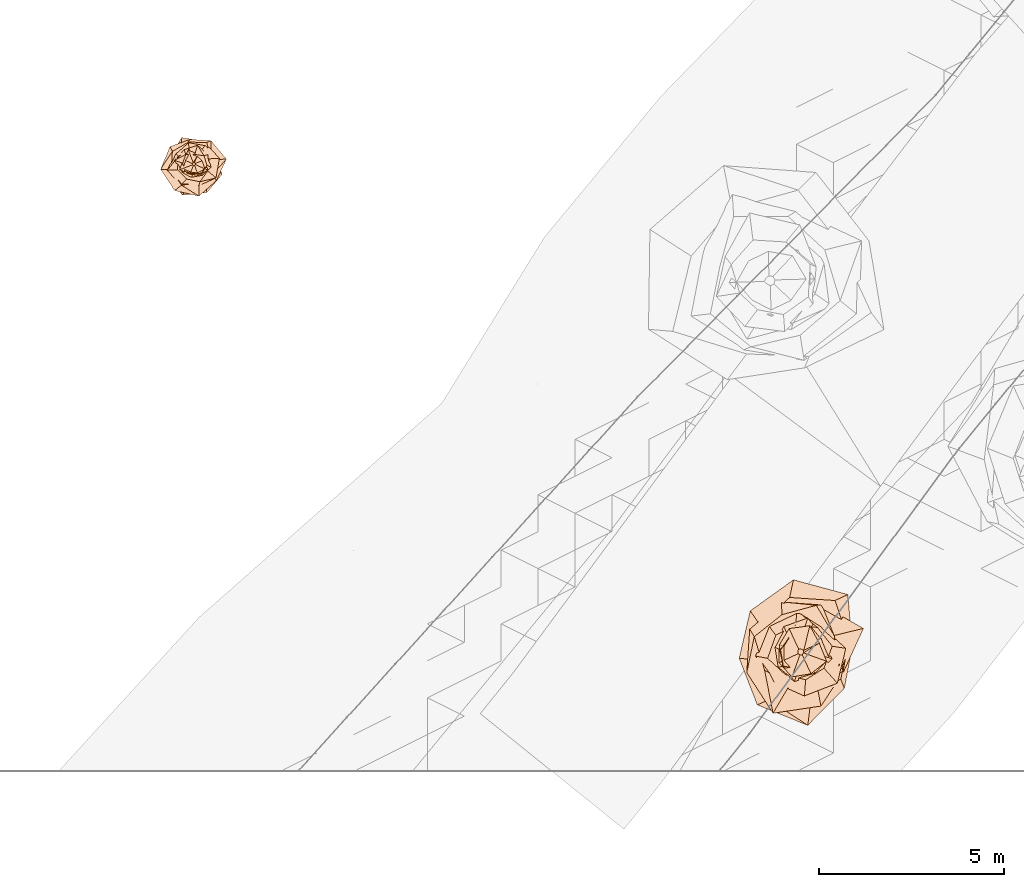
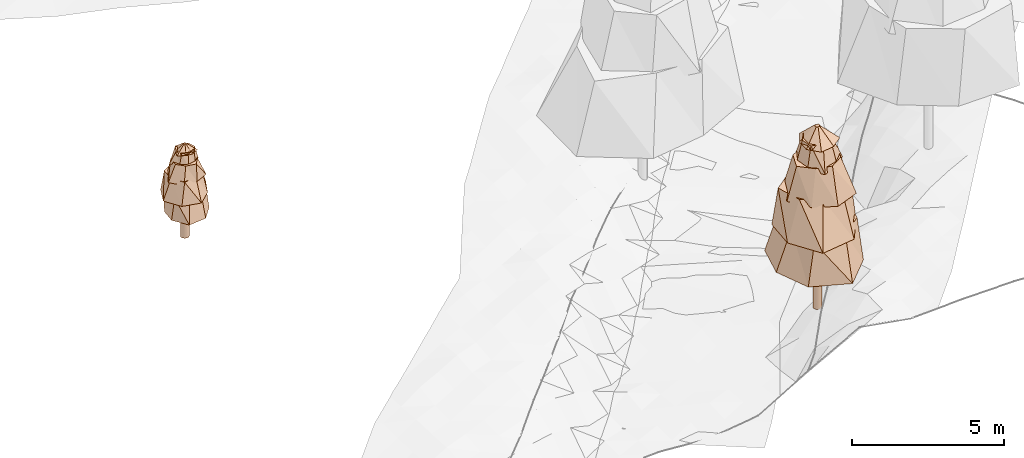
# Not in any storey, part 19 of 88: 2 geographic elements.
"""IFC4 model written with IfcOpenShell, lengths in metres."""

import ifcopenshell
import ifcopenshell.guid

model = None  # the IFC model being written
_history = None  # IfcOwnerHistory: only IFC2X3 demands one
_inside = {}  # id of a spatial element -> (the spatial element, [elements in it])
_under = {}  # id of a project, library or spatial element -> (it, [spatial elements below it])
_declared = {}  # id of a project -> (the project, [libraries it declares])
_typed = {}  # id of a type object -> (the type object, [elements of that type])
_made_of = {}  # id of a material, layer set ... -> (it, [elements and type objects made of it])


def new_model(schema):
    """Start an empty IFC model of exactly this schema.

    Asked for "IFC4X3", IfcOpenShell would pick the latest addendum, in which some entities
    have other attributes; the version numbers below select the first issue.
    IFC2X3 requires an IfcOwnerHistory on every rooted entity: one is made here for all.
    """
    global model, _history
    if schema == "IFC4X3":
        model = ifcopenshell.file(schema_version=(4, 3, 0, 0))
    else:
        model = ifcopenshell.file(schema=schema)
    _inside.clear()
    _under.clear()
    _declared.clear()
    _typed.clear()
    _made_of.clear()
    _history = None
    if model.schema == "IFC2X3":
        org = make("IfcOrganization", Name="unknown")
        user = make(
            "IfcPersonAndOrganization",
            ThePerson=make("IfcPerson", FamilyName="unknown"),
            TheOrganization=org,
        )
        app = make(
            "IfcApplication",
            ApplicationDeveloper=org,
            Version="unknown",
            ApplicationFullName="unknown",
            ApplicationIdentifier="unknown",
        )
        _history = make(
            "IfcOwnerHistory",
            OwningUser=user,
            OwningApplication=app,
            ChangeAction="ADDED",
            CreationDate=0,
        )
    return model


def make(cls, **values):
    """One entity of the class cls with the attributes given. An attribute that is None is left unset."""
    return model.create_entity(
        cls, **{name: value for name, value in values.items() if value is not None}
    )


def rooted(cls, **values):
    """An entity with a GlobalId (a new one), such as an element, a storey or a relation."""
    return make(cls, GlobalId=ifcopenshell.guid.new(), OwnerHistory=_history, **values)


def si_unit(unit_type, name, prefix=None):
    """IfcSIUnit, for example si_unit("LENGTHUNIT", "METRE", prefix="MILLI")."""
    return make("IfcSIUnit", UnitType=unit_type, Prefix=prefix, Name=name)


def assignment(units):
    """IfcUnitAssignment: the units of a project."""
    return None if units is None else make("IfcUnitAssignment", Units=units)


def point(xyz):
    """IfcCartesianPoint."""
    return None if xyz is None else make("IfcCartesianPoint", Coordinates=xyz)


def direction(xyz):
    """IfcDirection."""
    return None if xyz is None else make("IfcDirection", DirectionRatios=xyz)


def frame(location, z_axis=None, x_axis=None):
    """IfcAxis2Placement3D, a coordinate frame: its origin and axes. An axis left out is left unset."""
    return make(
        "IfcAxis2Placement3D",
        Location=point(location),
        Axis=direction(z_axis),
        RefDirection=direction(x_axis),
    )


def origin_with_axes():
    """The frame at (0, 0, 0) with the z axis (0, 0, 1) and the x axis (1, 0, 0) written out."""
    return frame((0.0, 0.0, 0.0), z_axis=(0.0, 0.0, 1.0), x_axis=(1.0, 0.0, 0.0))


def place(relative_to, where):
    """IfcLocalPlacement: puts the frame where relative to a parent placement (None: the world)."""
    return make(
        "IfcLocalPlacement", PlacementRelTo=relative_to, RelativePlacement=where
    )


def context(
    kind, dimensions, precision=None, world=None, true_north=None, identifier=None
):
    """IfcGeometricRepresentationContext, for example the 3D "Model" context."""
    return make(
        "IfcGeometricRepresentationContext",
        ContextIdentifier=identifier,
        ContextType=kind,
        CoordinateSpaceDimension=dimensions,
        Precision=precision,
        WorldCoordinateSystem=world,
        TrueNorth=true_north,
    )


def subcontext(parent, identifier, kind, view, scale=None):
    """IfcGeometricRepresentationSubContext, for example "Body" below "Model"."""
    return make(
        "IfcGeometricRepresentationSubContext",
        ContextIdentifier=identifier,
        ContextType=kind,
        ParentContext=parent,
        TargetScale=scale,
        TargetView=view,
    )


def project(units=None, contexts=None):
    """IfcProject with its units and contexts."""
    return rooted(
        "IfcProject",
        Name="project",
        RepresentationContexts=contexts,
        UnitsInContext=assignment(units),
    )


def spatial(cls, under=None, at=None, **own):
    """A site, building, storey or space (cls), placed at a placement, below another one or the project."""
    s = rooted(cls, ObjectPlacement=at, **own)
    if under is not None:
        _under.setdefault(under.id(), (under, []))[1].append(s)
    return s


def profile(cls, at=None, kind="AREA", **sizes):
    """A parametric profile (cls). Its sizes go by their IFC names, for example OverallWidth=200.0."""
    return make(cls, ProfileType=kind, Position=at, **sizes)


def circle(**sizes):
    """IfcCircleProfileDef."""
    return profile("IfcCircleProfileDef", **sizes)


def extrude(swept, where, along, depth):
    """IfcExtrudedAreaSolid: the profile swept, set in the frame where, extruded along a direction by depth."""
    return make(
        "IfcExtrudedAreaSolid",
        SweptArea=swept,
        Position=where,
        ExtrudedDirection=direction(along),
        Depth=depth,
    )


def faces_of(points, faces, orient=None, outer=None):
    """IfcFace entities. A face is a list of loops; a loop is a list of indices into points, from 0.

    orient and outer hold one flag for each loop. By default every Orientation is true, the
    first loop of a face is its IfcFaceOuterBound and the others are IfcFaceBound.
    """
    made = []
    for i, loops in enumerate(faces):
        bounds = []
        for j, loop in enumerate(loops):
            is_outer = j == 0 if outer is None else outer[i][j]
            bounds.append(
                make(
                    "IfcFaceOuterBound" if is_outer else "IfcFaceBound",
                    Bound=make("IfcPolyLoop", Polygon=[points[k] for k in loop]),
                    Orientation=True if orient is None else orient[i][j],
                )
            )
        made.append(make("IfcFace", Bounds=bounds))
    return made


def faceted_brep(points, faces, orient=None, outer=None, voids=None):
    """IfcFacetedBrep: a solid bounded by flat faces; with voids (closed shells), ...WithVoids."""
    shared = [point(p) for p in points]
    hull = make("IfcClosedShell", CfsFaces=faces_of(shared, faces, orient, outer))
    if voids is None:
        return make("IfcFacetedBrep", Outer=hull)
    return make(
        "IfcFacetedBrepWithVoids",
        Outer=hull,
        Voids=[
            make(cls, CfsFaces=faces_of(shared, fs, o, b)) for cls, fs, o, b in voids
        ],
    )


def shape(context_of_items, identifier, shape_type, items):
    """IfcShapeRepresentation: the items that make up one representation, for example the "Body"."""
    return make(
        "IfcShapeRepresentation",
        ContextOfItems=context_of_items,
        RepresentationIdentifier=identifier,
        RepresentationType=shape_type,
        Items=items,
    )


def made_of(thing, what):
    """Note that an element or type object is made of a material, layer set ...; save() writes the relation."""
    if what is not None:
        _made_of.setdefault(what.id(), (what, []))[1].append(thing)
    return thing


def element(
    cls,
    number,
    at=None,
    inside=None,
    cuts=None,
    type_object=None,
    material=None,
    context=None,
    identifier="Body",
    shape_type=None,
    held_by="IfcProductDefinitionShape",
    body=None,
    shapes=None,
    **own,
):
    """One element of the class cls, such as IfcWall. Its Tag is "e" and its number.

    at: its placement. inside: the storey or other place that contains it. cuts: it is an
    opening in that element (IfcRelVoidsElement). A single representation is given by context,
    identifier, shape_type and body (its items); several are given by shapes. held_by: the class
    of the entity that holds the representations. save() writes the other relations.
    """
    e = rooted(cls, Tag="e%d" % number, ObjectPlacement=at, **own)
    if body is not None:
        shapes = [shape(context, identifier, shape_type, body)]
    if shapes is not None:
        e.Representation = make(held_by, Representations=shapes)
    if inside is not None:
        _inside.setdefault(inside.id(), (inside, []))[1].append(e)
    if cuts is not None:
        rooted(
            "IfcRelVoidsElement", RelatingBuildingElement=cuts, RelatedOpeningElement=e
        )
    if type_object is not None:
        _typed.setdefault(type_object.id(), (type_object, []))[1].append(e)
    return made_of(e, material)


def aggregate(whole, parts):
    """IfcRelAggregates: a whole, such as a stair, and the parts it consists of."""
    return rooted("IfcRelAggregates", RelatingObject=whole, RelatedObjects=parts)


def save(model, path):
    """Write the relations noted so far, then the file.

    IfcRelAggregates (storeys below a building ...), IfcRelContainedInSpatialStructure (elements
    in a storey), IfcRelDefinesByType, IfcRelAssociatesMaterial and IfcRelDeclares: one each for
    every whole, place, type object, material and project.
    """
    for whole, parts in _under.values():
        aggregate(whole, parts)
    for where, things in _inside.values():
        rooted(
            "IfcRelContainedInSpatialStructure",
            RelatedElements=things,
            RelatingStructure=where,
        )
    for kind, things in _typed.values():
        rooted("IfcRelDefinesByType", RelatedObjects=things, RelatingType=kind)
    for what, things in _made_of.values():
        rooted("IfcRelAssociatesMaterial", RelatedObjects=things, RelatingMaterial=what)
    for by, libraries in _declared.values():
        rooted("IfcRelDeclares", RelatingContext=by, RelatedDefinitions=libraries)
    model.write(path)


model = new_model("IFC4")

# Units and contexts
model_context = context("Model", 3, precision=1e-05, world=origin_with_axes())
body_context = subcontext(model_context, "Body", "Model", "MODEL_VIEW")
ifc_project = project(units=[si_unit("LENGTHUNIT", "METRE"), si_unit("AREAUNIT", "SQUARE_METRE"), si_unit("VOLUMEUNIT", "CUBIC_METRE"), si_unit("PLANEANGLEUNIT", "RADIAN")], contexts=[model_context])

# Sites
site_1_placement = place(None, origin_with_axes())
site_1 = spatial("IfcSite", under=ifc_project, at=site_1_placement, Name="CH907857693633", CompositionType="ELEMENT")
site_2_placement = place(None, origin_with_axes())
site_2 = spatial("IfcSite", under=site_1, at=site_2_placement, Name="Vegetation", CompositionType="ELEMENT")

# Geographic element
geographic_element_1_placement = place(None, frame((25.6720000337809, 16.4590034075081, 2.1973876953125), z_axis=(0.0, 0.0, 1.0), x_axis=(1.0, 0.0, 0.0)))
element("IfcGeographicElement", 1, at=geographic_element_1_placement, inside=site_2, Name="Tree_einzelbaum", ObjectType="VEGETATION", PredefinedType="USERDEFINED", context=body_context, shape_type="Brep", body=[
    extrude(circle(Radius=0.15), origin_with_axes(), (0.0, 0.0, 1.0), 1.04802502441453),
    faceted_brep([(0.760157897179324, -0.283802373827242, 1.04802502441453), (0.352301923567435, -0.772089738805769, 1.04802502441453), (-0.315063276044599, -0.843889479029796, 1.04802502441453), (-0.683930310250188, -0.3120750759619, 1.04802502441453), (-0.64118519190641, 0.239384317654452, 1.04802502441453), (-0.328498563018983, 0.71992331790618, 1.04802502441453), (0.233872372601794, 0.626421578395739, 1.04802502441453), (0.620375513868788, 0.283075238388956, 1.04802502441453), (0.608518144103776, 0.354971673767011, 1.92580407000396), (0.134040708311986, 0.509361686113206, 1.92580407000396), (-0.340470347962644, 0.583658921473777, 1.92580407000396), (-0.694698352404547, 0.182812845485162, 1.92580407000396), (-0.579079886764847, -0.337799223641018, 1.92580407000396), (-0.157689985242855, -0.599230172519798, 1.92580407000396), (0.307355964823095, -0.526891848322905, 1.92580407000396), (0.687974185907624, -0.181043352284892, 1.92580407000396), (0.620375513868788, 0.283075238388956, 1.04802502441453), (0.233872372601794, 0.626421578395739, 1.04802502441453), (0.134040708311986, 0.509361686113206, 1.92580407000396), (0.608518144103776, 0.354971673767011, 1.92580407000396), (0.233872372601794, 0.626421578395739, 1.04802502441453), (-0.328498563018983, 0.71992331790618, 1.04802502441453), (-0.340470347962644, 0.583658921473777, 1.92580407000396), (0.134040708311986, 0.509361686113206, 1.92580407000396), (-0.328498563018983, 0.71992331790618, 1.04802502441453), (-0.64118519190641, 0.239384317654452, 1.04802502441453), (-0.694698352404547, 0.182812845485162, 1.92580407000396), (-0.340470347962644, 0.583658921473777, 1.92580407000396), (-0.64118519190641, 0.239384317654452, 1.04802502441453), (-0.683930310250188, -0.3120750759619, 1.04802502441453), (-0.579079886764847, -0.337799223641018, 1.92580407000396), (-0.694698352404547, 0.182812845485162, 1.92580407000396), (-0.683930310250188, -0.3120750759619, 1.04802502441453), (-0.315063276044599, -0.843889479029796, 1.04802502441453), (-0.157689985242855, -0.599230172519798, 1.92580407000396), (-0.579079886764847, -0.337799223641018, 1.92580407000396), (-0.315063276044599, -0.843889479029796, 1.04802502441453), (0.352301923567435, -0.772089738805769, 1.04802502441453), (0.307355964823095, -0.526891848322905, 1.92580407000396), (-0.157689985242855, -0.599230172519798, 1.92580407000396), (0.352301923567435, -0.772089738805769, 1.04802502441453), (0.760157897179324, -0.283802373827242, 1.04802502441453), (0.687974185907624, -0.181043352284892, 1.92580407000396), (0.307355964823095, -0.526891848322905, 1.92580407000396), (0.760157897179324, -0.283802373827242, 1.04802502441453), (0.620375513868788, 0.283075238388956, 1.04802502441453), (0.608518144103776, 0.354971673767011, 1.92580407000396), (0.687974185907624, -0.181043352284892, 1.92580407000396)], [[[0, 1, 2, 3, 4, 5, 6, 7]], [[8, 9, 10, 11, 12, 13, 14, 15]], [[16, 17, 18, 19]], [[20, 21, 22, 23]], [[24, 25, 26, 27]], [[28, 29, 30, 31]], [[32, 33, 34, 35]], [[36, 37, 38, 39]], [[40, 41, 42, 43]], [[44, 45, 46, 47]]]),
    faceted_brep([(0.609917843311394, -0.446165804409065, 1.79413721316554), (0.134679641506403, -0.868587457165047, 1.79413721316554), (-0.524050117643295, -0.716387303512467, 1.79413721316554), (-0.904117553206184, -0.140188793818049, 1.79413721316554), (-0.648590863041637, 0.474455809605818, 1.79413721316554), (-0.104321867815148, 0.672801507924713, 1.79413721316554), (0.462765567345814, 0.632610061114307, 1.79413721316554), (0.880609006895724, 0.136543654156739, 1.79413721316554), (0.459568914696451, 0.119224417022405, 2.6106893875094), (0.34656120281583, 0.589365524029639, 2.6106893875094), (-0.154292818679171, 0.594745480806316, 2.6106893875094), (-0.584459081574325, 0.34367609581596, 2.6106893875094), (-0.616670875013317, -0.159980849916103, 2.6106893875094), (-0.336207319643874, -0.571757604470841, 2.6106893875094), (0.131516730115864, -0.506951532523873, 2.6106893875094), (0.496121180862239, -0.291731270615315, 2.6106893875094), (0.880609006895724, 0.136543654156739, 1.79413721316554), (0.462765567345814, 0.632610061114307, 1.79413721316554), (0.34656120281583, 0.589365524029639, 2.6106893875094), (0.459568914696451, 0.119224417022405, 2.6106893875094), (0.462765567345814, 0.632610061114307, 1.79413721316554), (-0.104321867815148, 0.672801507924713, 1.79413721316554), (-0.154292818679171, 0.594745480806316, 2.6106893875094), (0.34656120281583, 0.589365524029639, 2.6106893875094), (-0.104321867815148, 0.672801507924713, 1.79413721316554), (-0.648590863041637, 0.474455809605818, 1.79413721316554), (-0.584459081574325, 0.34367609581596, 2.6106893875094), (-0.154292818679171, 0.594745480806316, 2.6106893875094), (-0.648590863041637, 0.474455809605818, 1.79413721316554), (-0.904117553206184, -0.140188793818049, 1.79413721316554), (-0.616670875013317, -0.159980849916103, 2.6106893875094), (-0.584459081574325, 0.34367609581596, 2.6106893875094), (-0.904117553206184, -0.140188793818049, 1.79413721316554), (-0.524050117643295, -0.716387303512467, 1.79413721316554), (-0.336207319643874, -0.571757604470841, 2.6106893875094), (-0.616670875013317, -0.159980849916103, 2.6106893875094), (-0.524050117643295, -0.716387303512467, 1.79413721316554), (0.134679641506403, -0.868587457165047, 1.79413721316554), (0.131516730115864, -0.506951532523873, 2.6106893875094), (-0.336207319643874, -0.571757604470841, 2.6106893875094), (0.134679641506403, -0.868587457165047, 1.79413721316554), (0.609917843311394, -0.446165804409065, 1.79413721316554), (0.496121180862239, -0.291731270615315, 2.6106893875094), (0.131516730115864, -0.506951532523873, 2.6106893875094), (0.609917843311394, -0.446165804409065, 1.79413721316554), (0.880609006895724, 0.136543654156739, 1.79413721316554), (0.459568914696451, 0.119224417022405, 2.6106893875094), (0.496121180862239, -0.291731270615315, 2.6106893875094)], [[[0, 1, 2, 3, 4, 5, 6, 7]], [[8, 9, 10, 11, 12, 13, 14, 15]], [[16, 17, 18, 19]], [[20, 21, 22, 23]], [[24, 25, 26, 27]], [[28, 29, 30, 31]], [[32, 33, 34, 35]], [[36, 37, 38, 39]], [[40, 41, 42, 43]], [[44, 45, 46, 47]]]),
    faceted_brep([(0.597835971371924, -0.372540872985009, 2.48820656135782), (0.135492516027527, -0.583584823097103, 2.48820656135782), (-0.355609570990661, -0.570665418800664, 2.48820656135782), (-0.72435803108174, -0.168176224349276, 2.48820656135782), (-0.498180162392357, 0.310440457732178, 2.48820656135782), (-0.144704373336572, 0.62326155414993, 2.48820656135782), (0.336332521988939, 0.539730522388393, 2.48820656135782), (0.690406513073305, 0.16029360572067, 2.48820656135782), (0.417452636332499, 0.142116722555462, 3.11753908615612), (0.169001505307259, 0.343464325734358, 3.11753908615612), (-0.136364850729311, 0.400557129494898, 3.11753908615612), (-0.42375328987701, 0.208507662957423, 3.11753908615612), (-0.445520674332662, -0.151672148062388, 3.11753908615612), (-0.199612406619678, -0.40567532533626, 3.11753908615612), (0.162961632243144, -0.478682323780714, 3.11753908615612), (0.373643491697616, -0.183851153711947, 3.11753908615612), (0.690406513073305, 0.16029360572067, 2.48820656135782), (0.336332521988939, 0.539730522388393, 2.48820656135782), (0.169001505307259, 0.343464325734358, 3.11753908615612), (0.417452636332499, 0.142116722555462, 3.11753908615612), (0.336332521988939, 0.539730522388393, 2.48820656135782), (-0.144704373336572, 0.62326155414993, 2.48820656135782), (-0.136364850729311, 0.400557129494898, 3.11753908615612), (0.169001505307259, 0.343464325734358, 3.11753908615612), (-0.144704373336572, 0.62326155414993, 2.48820656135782), (-0.498180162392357, 0.310440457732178, 2.48820656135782), (-0.42375328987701, 0.208507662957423, 3.11753908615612), (-0.136364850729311, 0.400557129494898, 3.11753908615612), (-0.498180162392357, 0.310440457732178, 2.48820656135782), (-0.72435803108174, -0.168176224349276, 2.48820656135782), (-0.445520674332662, -0.151672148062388, 3.11753908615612), (-0.42375328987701, 0.208507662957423, 3.11753908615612), (-0.72435803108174, -0.168176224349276, 2.48820656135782), (-0.355609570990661, -0.570665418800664, 2.48820656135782), (-0.199612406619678, -0.40567532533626, 3.11753908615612), (-0.445520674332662, -0.151672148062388, 3.11753908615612), (-0.355609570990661, -0.570665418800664, 2.48820656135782), (0.135492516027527, -0.583584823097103, 2.48820656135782), (0.162961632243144, -0.478682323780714, 3.11753908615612), (-0.199612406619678, -0.40567532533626, 3.11753908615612), (0.135492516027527, -0.583584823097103, 2.48820656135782), (0.597835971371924, -0.372540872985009, 2.48820656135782), (0.373643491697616, -0.183851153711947, 3.11753908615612), (0.162961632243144, -0.478682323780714, 3.11753908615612), (0.597835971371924, -0.372540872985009, 2.48820656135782), (0.690406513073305, 0.16029360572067, 2.48820656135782), (0.417452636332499, 0.142116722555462, 3.11753908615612), (0.373643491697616, -0.183851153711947, 3.11753908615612)], [[[0, 1, 2, 3, 4, 5, 6, 7]], [[8, 9, 10, 11, 12, 13, 14, 15]], [[16, 17, 18, 19]], [[20, 21, 22, 23]], [[24, 25, 26, 27]], [[28, 29, 30, 31]], [[32, 33, 34, 35]], [[36, 37, 38, 39]], [[40, 41, 42, 43]], [[44, 45, 46, 47]]]),
    faceted_brep([(0.46443738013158, -0.0881870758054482, 3.02313920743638), (0.223379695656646, -0.328092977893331, 3.02313920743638), (-0.0718966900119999, -0.37864403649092, 3.02313920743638), (-0.33846258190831, -0.23043976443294, 3.02313920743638), (-0.526856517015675, 0.100039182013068, 3.02313920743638), (-0.266728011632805, 0.391761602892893, 3.02313920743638), (0.0974395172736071, 0.513165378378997, 3.02313920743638), (0.377544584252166, 0.257048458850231, 3.02313920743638), (0.271100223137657, 0.227305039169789, 3.49990604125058), (0.023009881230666, 0.261860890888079, 3.49990604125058), (-0.220483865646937, 0.262964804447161, 3.49990604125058), (-0.305514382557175, 0.0268457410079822, 3.49990604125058), (-0.240085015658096, -0.201300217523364, 3.49990604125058), (-0.0226245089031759, -0.257475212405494, 3.49990604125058), (0.205553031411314, -0.245157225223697, 3.49990604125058), (0.355649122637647, -0.0312511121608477, 3.49990604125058), (0.377544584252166, 0.257048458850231, 3.02313920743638), (0.0974395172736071, 0.513165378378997, 3.02313920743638), (0.023009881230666, 0.261860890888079, 3.49990604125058), (0.271100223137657, 0.227305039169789, 3.49990604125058), (0.0974395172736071, 0.513165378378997, 3.02313920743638), (-0.266728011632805, 0.391761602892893, 3.02313920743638), (-0.220483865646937, 0.262964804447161, 3.49990604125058), (0.023009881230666, 0.261860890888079, 3.49990604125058), (-0.266728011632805, 0.391761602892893, 3.02313920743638), (-0.526856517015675, 0.100039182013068, 3.02313920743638), (-0.305514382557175, 0.0268457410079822, 3.49990604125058), (-0.220483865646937, 0.262964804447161, 3.49990604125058), (-0.526856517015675, 0.100039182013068, 3.02313920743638), (-0.33846258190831, -0.23043976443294, 3.02313920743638), (-0.240085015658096, -0.201300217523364, 3.49990604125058), (-0.305514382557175, 0.0268457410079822, 3.49990604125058), (-0.33846258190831, -0.23043976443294, 3.02313920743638), (-0.0718966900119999, -0.37864403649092, 3.02313920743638), (-0.0226245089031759, -0.257475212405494, 3.49990604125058), (-0.240085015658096, -0.201300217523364, 3.49990604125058), (-0.0718966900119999, -0.37864403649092, 3.02313920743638), (0.223379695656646, -0.328092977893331, 3.02313920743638), (0.205553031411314, -0.245157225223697, 3.49990604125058), (-0.0226245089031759, -0.257475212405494, 3.49990604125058), (0.223379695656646, -0.328092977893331, 3.02313920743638), (0.46443738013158, -0.0881870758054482, 3.02313920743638), (0.355649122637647, -0.0312511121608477, 3.49990604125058), (0.205553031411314, -0.245157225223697, 3.49990604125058), (0.46443738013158, -0.0881870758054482, 3.02313920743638), (0.377544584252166, 0.257048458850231, 3.02313920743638), (0.271100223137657, 0.227305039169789, 3.49990604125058), (0.355649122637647, -0.0312511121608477, 3.49990604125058)], [[[0, 1, 2, 3, 4, 5, 6, 7]], [[8, 9, 10, 11, 12, 13, 14, 15]], [[16, 17, 18, 19]], [[20, 21, 22, 23]], [[24, 25, 26, 27]], [[28, 29, 30, 31]], [[32, 33, 34, 35]], [[36, 37, 38, 39]], [[40, 41, 42, 43]], [[44, 45, 46, 47]]]),
    faceted_brep([(0.38207179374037, -0.165537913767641, 3.42839101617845), (0.120381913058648, -0.304443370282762, 3.42839101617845), (-0.11770187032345, -0.271663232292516, 3.42839101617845), (-0.386631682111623, -0.152880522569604, 3.42839101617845), (-0.290263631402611, 0.125760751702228, 3.42839101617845), (-0.151858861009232, 0.384047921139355, 3.42839101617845), (0.114160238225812, 0.263488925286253, 3.42839101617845), (0.283248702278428, 0.112001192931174, 3.42839101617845), (0.0356344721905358, 0.0183956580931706, 3.72146262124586), (0.0158121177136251, 0.0495585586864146, 3.72146262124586), (-0.0185533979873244, 0.0359400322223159, 3.72146262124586), (-0.0391096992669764, 0.012478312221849, 3.72146262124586), (-0.039837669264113, -0.0205654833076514, 3.72146262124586), (-0.0125453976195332, -0.0393199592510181, 3.72146262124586), (0.0168143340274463, -0.0325712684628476, 3.72146262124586), (0.0380590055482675, -0.012143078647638, 3.72146262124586), (0.283248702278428, 0.112001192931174, 3.42839101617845), (0.114160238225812, 0.263488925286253, 3.42839101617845), (0.0158121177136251, 0.0495585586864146, 3.72146262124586), (0.0356344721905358, 0.0183956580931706, 3.72146262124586), (0.114160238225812, 0.263488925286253, 3.42839101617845), (-0.151858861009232, 0.384047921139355, 3.42839101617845), (-0.0185533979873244, 0.0359400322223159, 3.72146262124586), (0.0158121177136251, 0.0495585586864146, 3.72146262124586), (-0.151858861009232, 0.384047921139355, 3.42839101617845), (-0.290263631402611, 0.125760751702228, 3.42839101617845), (-0.0391096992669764, 0.012478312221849, 3.72146262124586), (-0.0185533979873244, 0.0359400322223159, 3.72146262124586), (-0.290263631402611, 0.125760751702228, 3.42839101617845), (-0.386631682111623, -0.152880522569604, 3.42839101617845), (-0.039837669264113, -0.0205654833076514, 3.72146262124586), (-0.0391096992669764, 0.012478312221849, 3.72146262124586), (-0.386631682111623, -0.152880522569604, 3.42839101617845), (-0.11770187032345, -0.271663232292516, 3.42839101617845), (-0.0125453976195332, -0.0393199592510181, 3.72146262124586), (-0.039837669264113, -0.0205654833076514, 3.72146262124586), (-0.11770187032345, -0.271663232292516, 3.42839101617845), (0.120381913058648, -0.304443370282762, 3.42839101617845), (0.0168143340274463, -0.0325712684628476, 3.72146262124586), (-0.0125453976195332, -0.0393199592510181, 3.72146262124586), (0.120381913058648, -0.304443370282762, 3.42839101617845), (0.38207179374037, -0.165537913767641, 3.42839101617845), (0.0380590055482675, -0.012143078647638, 3.72146262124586), (0.0168143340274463, -0.0325712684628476, 3.72146262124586), (0.38207179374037, -0.165537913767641, 3.42839101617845), (0.283248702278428, 0.112001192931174, 3.42839101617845), (0.0356344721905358, 0.0183956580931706, 3.72146262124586), (0.0380590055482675, -0.012143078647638, 3.72146262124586)], [[[0, 1, 2, 3, 4, 5, 6, 7]], [[8, 9, 10, 11, 12, 13, 14, 15]], [[16, 17, 18, 19]], [[20, 21, 22, 23]], [[24, 25, 26, 27]], [[28, 29, 30, 31]], [[32, 33, 34, 35]], [[36, 37, 38, 39]], [[40, 41, 42, 43]], [[44, 45, 46, 47]]]),
])

# Site
site_3_placement = place(None, origin_with_axes())
site_3 = spatial("IfcSite", under=site_1, at=site_3_placement, Name="Simulated_forest", CompositionType="ELEMENT")

# Geographic element
geographic_element_2_placement = place(None, frame((42.1116067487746, 3.23241962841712, 1.59759521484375), z_axis=(0.0, 0.0, 1.0), x_axis=(1.0, 0.0, 0.0)))
element("IfcGeographicElement", 2, at=geographic_element_2_placement, inside=site_3, Name="Tree_SIMULATED_WOODED_AREA", ObjectType="VEGETATION", PredefinedType="USERDEFINED", context=body_context, shape_type="Brep", body=[
    extrude(circle(Radius=0.15), origin_with_axes(), (0.0, 0.0, 1.0), 2.07273399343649),
    faceted_brep([(1.18630371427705, -0.974513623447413, 2.07273399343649), (0.194258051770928, -1.98194431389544, 2.07273399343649), (-1.17179637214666, -1.42646172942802, 2.07273399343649), (-1.66366732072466, -0.163062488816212, 2.07273399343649), (-1.36334178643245, 1.11994519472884, 2.07273399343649), (-0.19214657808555, 1.96040171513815, 2.07273399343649), (1.28310441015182, 1.56196023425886, 2.07273399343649), (1.39969796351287, 0.137189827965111, 2.07273399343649), (1.32136178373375, 0.264693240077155, 3.65419368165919), (0.933150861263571, 1.40065550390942, 3.65419368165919), (-0.297042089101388, 1.48284884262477, 3.65419368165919), (-1.09721382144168, 0.73099061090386, 3.65419368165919), (-1.12503481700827, -0.22536531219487, 3.65419368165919), (-0.8588319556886, -1.28910314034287, 3.65419368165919), (0.272692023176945, -1.36129210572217, 3.65419368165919), (1.08862535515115, -0.725268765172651, 3.65419368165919), (1.39969796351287, 0.137189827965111, 2.07273399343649), (1.28310441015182, 1.56196023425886, 2.07273399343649), (0.933150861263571, 1.40065550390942, 3.65419368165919), (1.32136178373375, 0.264693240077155, 3.65419368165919), (1.28310441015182, 1.56196023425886, 2.07273399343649), (-0.19214657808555, 1.96040171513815, 2.07273399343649), (-0.297042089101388, 1.48284884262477, 3.65419368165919), (0.933150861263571, 1.40065550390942, 3.65419368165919), (-0.19214657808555, 1.96040171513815, 2.07273399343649), (-1.36334178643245, 1.11994519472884, 2.07273399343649), (-1.09721382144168, 0.73099061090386, 3.65419368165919), (-0.297042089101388, 1.48284884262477, 3.65419368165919), (-1.36334178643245, 1.11994519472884, 2.07273399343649), (-1.66366732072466, -0.163062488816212, 2.07273399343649), (-1.12503481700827, -0.22536531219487, 3.65419368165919), (-1.09721382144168, 0.73099061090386, 3.65419368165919), (-1.66366732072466, -0.163062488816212, 2.07273399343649), (-1.17179637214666, -1.42646172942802, 2.07273399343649), (-0.8588319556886, -1.28910314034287, 3.65419368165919), (-1.12503481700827, -0.22536531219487, 3.65419368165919), (-1.17179637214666, -1.42646172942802, 2.07273399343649), (0.194258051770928, -1.98194431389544, 2.07273399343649), (0.272692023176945, -1.36129210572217, 3.65419368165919), (-0.8588319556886, -1.28910314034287, 3.65419368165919), (0.194258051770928, -1.98194431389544, 2.07273399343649), (1.18630371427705, -0.974513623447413, 2.07273399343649), (1.08862535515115, -0.725268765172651, 3.65419368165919), (0.272692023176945, -1.36129210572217, 3.65419368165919), (1.18630371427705, -0.974513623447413, 2.07273399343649), (1.39969796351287, 0.137189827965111, 2.07273399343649), (1.32136178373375, 0.264693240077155, 3.65419368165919), (1.08862535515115, -0.725268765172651, 3.65419368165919)], [[[0, 1, 2, 3, 4, 5, 6, 7]], [[8, 9, 10, 11, 12, 13, 14, 15]], [[16, 17, 18, 19]], [[20, 21, 22, 23]], [[24, 25, 26, 27]], [[28, 29, 30, 31]], [[32, 33, 34, 35]], [[36, 37, 38, 39]], [[40, 41, 42, 43]], [[44, 45, 46, 47]]]),
    faceted_brep([(1.16747525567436, -0.526897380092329, 3.41697472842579), (0.552255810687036, -1.46075468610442, 3.41697472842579), (-0.746231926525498, -1.65346677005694, 3.41697472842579), (-1.4583624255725, -0.551351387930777, 3.41697472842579), (-1.37806002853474, 0.621937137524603, 3.41697472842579), (-0.515557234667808, 1.36368442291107, 3.41697472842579), (0.578134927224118, 1.28100508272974, 3.41697472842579), (1.70350695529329, 0.644031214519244, 3.41697472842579), (0.909313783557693, 0.452164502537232, 4.96404066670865), (0.426384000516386, 1.26985337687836, 4.96404066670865), (-0.505667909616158, 1.01691043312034, 4.96404066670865), (-1.25400360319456, 0.421062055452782, 4.96404066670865), (-0.974469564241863, -0.484563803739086, 4.96404066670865), (-0.301748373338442, -0.898664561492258, 4.96404066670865), (0.44291443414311, -0.890711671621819, 4.96404066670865), (1.05388066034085, -0.353865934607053, 4.96404066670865), (1.70350695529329, 0.644031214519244, 3.41697472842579), (0.578134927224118, 1.28100508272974, 3.41697472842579), (0.426384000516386, 1.26985337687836, 4.96404066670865), (0.909313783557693, 0.452164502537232, 4.96404066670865), (0.578134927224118, 1.28100508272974, 3.41697472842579), (-0.515557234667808, 1.36368442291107, 3.41697472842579), (-0.505667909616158, 1.01691043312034, 4.96404066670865), (0.426384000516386, 1.26985337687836, 4.96404066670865), (-0.515557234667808, 1.36368442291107, 3.41697472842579), (-1.37806002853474, 0.621937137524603, 3.41697472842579), (-1.25400360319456, 0.421062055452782, 4.96404066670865), (-0.505667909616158, 1.01691043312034, 4.96404066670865), (-1.37806002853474, 0.621937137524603, 3.41697472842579), (-1.4583624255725, -0.551351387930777, 3.41697472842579), (-0.974469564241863, -0.484563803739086, 4.96404066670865), (-1.25400360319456, 0.421062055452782, 4.96404066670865), (-1.4583624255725, -0.551351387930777, 3.41697472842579), (-0.746231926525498, -1.65346677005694, 3.41697472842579), (-0.301748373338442, -0.898664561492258, 4.96404066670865), (-0.974469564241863, -0.484563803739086, 4.96404066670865), (-0.746231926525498, -1.65346677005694, 3.41697472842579), (0.552255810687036, -1.46075468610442, 3.41697472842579), (0.44291443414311, -0.890711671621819, 4.96404066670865), (-0.301748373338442, -0.898664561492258, 4.96404066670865), (0.552255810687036, -1.46075468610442, 3.41697472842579), (1.16747525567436, -0.526897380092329, 3.41697472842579), (1.05388066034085, -0.353865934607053, 4.96404066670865), (0.44291443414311, -0.890711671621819, 4.96404066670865), (1.16747525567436, -0.526897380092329, 3.41697472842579), (1.70350695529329, 0.644031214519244, 3.41697472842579), (0.909313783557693, 0.452164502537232, 4.96404066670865), (1.05388066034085, -0.353865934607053, 4.96404066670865)], [[[0, 1, 2, 3, 4, 5, 6, 7]], [[8, 9, 10, 11, 12, 13, 14, 15]], [[16, 17, 18, 19]], [[20, 21, 22, 23]], [[24, 25, 26, 27]], [[28, 29, 30, 31]], [[32, 33, 34, 35]], [[36, 37, 38, 39]], [[40, 41, 42, 43]], [[44, 45, 46, 47]]]),
    faceted_brep([(0.996165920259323, -0.8397445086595, 4.73198077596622), (0.101037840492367, -1.18587617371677, 4.73198077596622), (-0.700761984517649, -0.831294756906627, 4.73198077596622), (-1.22277562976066, -0.104181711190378, 4.73198077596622), (-0.881519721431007, 0.743100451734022, 4.73198077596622), (-0.0952002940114, 1.11736117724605, 4.73198077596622), (0.579700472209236, 0.687682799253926, 4.73198077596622), (1.22628003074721, 0.104480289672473, 4.73198077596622), (0.858238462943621, 0.16060681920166, 6.07037003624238), (0.459214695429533, 0.67065295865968, 6.07037003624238), (-0.137453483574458, 0.734513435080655, 6.07037003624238), (-0.671024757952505, 0.459469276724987, 6.07037003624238), (-0.892875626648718, -0.16708865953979, 6.07037003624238), (-0.415099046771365, -0.606224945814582, 6.07037003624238), (0.139918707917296, -0.747686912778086, 6.07037003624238), (0.634672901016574, -0.434578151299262, 6.07037003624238), (1.22628003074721, 0.104480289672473, 4.73198077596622), (0.579700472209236, 0.687682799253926, 4.73198077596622), (0.459214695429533, 0.67065295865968, 6.07037003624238), (0.858238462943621, 0.16060681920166, 6.07037003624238), (0.579700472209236, 0.687682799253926, 4.73198077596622), (-0.0952002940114, 1.11736117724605, 4.73198077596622), (-0.137453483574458, 0.734513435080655, 6.07037003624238), (0.459214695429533, 0.67065295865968, 6.07037003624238), (-0.0952002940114, 1.11736117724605, 4.73198077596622), (-0.881519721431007, 0.743100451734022, 4.73198077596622), (-0.671024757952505, 0.459469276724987, 6.07037003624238), (-0.137453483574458, 0.734513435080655, 6.07037003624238), (-0.881519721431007, 0.743100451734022, 4.73198077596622), (-1.22277562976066, -0.104181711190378, 4.73198077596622), (-0.892875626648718, -0.16708865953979, 6.07037003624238), (-0.671024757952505, 0.459469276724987, 6.07037003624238), (-1.22277562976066, -0.104181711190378, 4.73198077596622), (-0.700761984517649, -0.831294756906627, 4.73198077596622), (-0.415099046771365, -0.606224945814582, 6.07037003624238), (-0.892875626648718, -0.16708865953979, 6.07037003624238), (-0.700761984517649, -0.831294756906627, 4.73198077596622), (0.101037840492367, -1.18587617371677, 4.73198077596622), (0.139918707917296, -0.747686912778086, 6.07037003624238), (-0.415099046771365, -0.606224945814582, 6.07037003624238), (0.101037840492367, -1.18587617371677, 4.73198077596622), (0.996165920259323, -0.8397445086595, 4.73198077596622), (0.634672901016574, -0.434578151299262, 6.07037003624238), (0.139918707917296, -0.747686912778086, 6.07037003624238), (0.996165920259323, -0.8397445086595, 4.73198077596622), (1.22628003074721, 0.104480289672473, 4.73198077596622), (0.858238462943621, 0.16060681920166, 6.07037003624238), (0.634672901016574, -0.434578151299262, 6.07037003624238)], [[[0, 1, 2, 3, 4, 5, 6, 7]], [[8, 9, 10, 11, 12, 13, 14, 15]], [[16, 17, 18, 19]], [[20, 21, 22, 23]], [[24, 25, 26, 27]], [[28, 29, 30, 31]], [[32, 33, 34, 35]], [[36, 37, 38, 39]], [[40, 41, 42, 43]], [[44, 45, 46, 47]]]),
    faceted_brep([(0.851510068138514, -0.17808605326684, 5.86961164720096), (0.409322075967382, -0.625811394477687, 5.86961164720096), (-0.166354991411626, -0.795418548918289, 5.86961164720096), (-0.640362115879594, -0.418839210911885, 5.86961164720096), (-0.733046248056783, 0.153310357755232, 5.86961164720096), (-0.454448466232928, 0.694805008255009, 5.86961164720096), (0.193659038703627, 0.925971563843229, 5.86961164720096), (0.613583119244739, 0.401323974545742, 5.86961164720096), (0.343170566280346, 0.277071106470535, 6.86019401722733), (0.0525601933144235, 0.493196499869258, 6.86019401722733), (-0.317281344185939, 0.392973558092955, 6.86019401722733), (-0.54073037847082, 0.0576259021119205, 6.86019401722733), (-0.466093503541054, -0.376317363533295, 6.86019401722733), (-0.048349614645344, -0.453686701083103, 6.86019401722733), (0.28890198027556, -0.357823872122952, 6.86019401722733), (0.43986606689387, -0.0468767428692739, 6.86019401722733), (0.613583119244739, 0.401323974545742, 5.86961164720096), (0.193659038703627, 0.925971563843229, 5.86961164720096), (0.0525601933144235, 0.493196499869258, 6.86019401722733), (0.343170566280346, 0.277071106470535, 6.86019401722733), (0.193659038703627, 0.925971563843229, 5.86961164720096), (-0.454448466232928, 0.694805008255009, 5.86961164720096), (-0.317281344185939, 0.392973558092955, 6.86019401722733), (0.0525601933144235, 0.493196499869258, 6.86019401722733), (-0.454448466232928, 0.694805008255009, 5.86961164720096), (-0.733046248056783, 0.153310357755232, 5.86961164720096), (-0.54073037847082, 0.0576259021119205, 6.86019401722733), (-0.317281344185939, 0.392973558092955, 6.86019401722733), (-0.733046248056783, 0.153310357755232, 5.86961164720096), (-0.640362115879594, -0.418839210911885, 5.86961164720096), (-0.466093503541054, -0.376317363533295, 6.86019401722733), (-0.54073037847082, 0.0576259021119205, 6.86019401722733), (-0.640362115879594, -0.418839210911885, 5.86961164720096), (-0.166354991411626, -0.795418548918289, 5.86961164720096), (-0.048349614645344, -0.453686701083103, 6.86019401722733), (-0.466093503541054, -0.376317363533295, 6.86019401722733), (-0.166354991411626, -0.795418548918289, 5.86961164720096), (0.409322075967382, -0.625811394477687, 5.86961164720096), (0.28890198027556, -0.357823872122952, 6.86019401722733), (-0.048349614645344, -0.453686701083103, 6.86019401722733), (0.409322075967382, -0.625811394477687, 5.86961164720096), (0.851510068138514, -0.17808605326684, 5.86961164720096), (0.43986606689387, -0.0468767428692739, 6.86019401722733), (0.28890198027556, -0.357823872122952, 6.86019401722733), (0.851510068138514, -0.17808605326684, 5.86961164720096), (0.613583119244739, 0.401323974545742, 5.86961164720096), (0.343170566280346, 0.277071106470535, 6.86019401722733), (0.43986606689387, -0.0468767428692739, 6.86019401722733)], [[[0, 1, 2, 3, 4, 5, 6, 7]], [[8, 9, 10, 11, 12, 13, 14, 15]], [[16, 17, 18, 19]], [[20, 21, 22, 23]], [[24, 25, 26, 27]], [[28, 29, 30, 31]], [[32, 33, 34, 35]], [[36, 37, 38, 39]], [[40, 41, 42, 43]], [[44, 45, 46, 47]]]),
    faceted_brep([(0.705638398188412, -0.245974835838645, 6.71160666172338), (0.281651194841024, -0.583085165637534, 6.71160666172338), (-0.234115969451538, -0.671618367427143, 6.71160666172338), (-0.583875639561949, -0.282033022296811, 6.71160666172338), (-0.575853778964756, 0.200733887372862, 6.71160666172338), (-0.308931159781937, 0.639561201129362, 6.71160666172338), (0.250065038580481, 0.717372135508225, 6.71160666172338), (0.506963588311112, 0.2448817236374, 6.71160666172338), (0.0885658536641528, 0.0542983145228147, 7.29128314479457), (0.0191790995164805, 0.0799592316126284, 7.29128314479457), (-0.0542813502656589, 0.0885381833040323, 7.29128314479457), (-0.0766797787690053, 0.0183924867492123, 7.29128314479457), (-0.066601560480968, -0.0408323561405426, 7.29128314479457), (-0.0171077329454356, -0.0713235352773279, 7.29128314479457), (0.0453412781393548, -0.073956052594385, 7.29128314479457), (0.0743538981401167, -0.0178345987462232, 7.29128314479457), (0.506963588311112, 0.2448817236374, 6.71160666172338), (0.250065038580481, 0.717372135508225, 6.71160666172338), (0.0191790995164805, 0.0799592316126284, 7.29128314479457), (0.0885658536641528, 0.0542983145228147, 7.29128314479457), (0.250065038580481, 0.717372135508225, 6.71160666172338), (-0.308931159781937, 0.639561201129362, 6.71160666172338), (-0.0542813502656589, 0.0885381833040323, 7.29128314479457), (0.0191790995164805, 0.0799592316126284, 7.29128314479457), (-0.308931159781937, 0.639561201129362, 6.71160666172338), (-0.575853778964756, 0.200733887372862, 6.71160666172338), (-0.0766797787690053, 0.0183924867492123, 7.29128314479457), (-0.0542813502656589, 0.0885381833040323, 7.29128314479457), (-0.575853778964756, 0.200733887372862, 6.71160666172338), (-0.583875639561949, -0.282033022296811, 6.71160666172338), (-0.066601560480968, -0.0408323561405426, 7.29128314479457), (-0.0766797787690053, 0.0183924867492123, 7.29128314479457), (-0.583875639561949, -0.282033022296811, 6.71160666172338), (-0.234115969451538, -0.671618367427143, 6.71160666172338), (-0.0171077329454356, -0.0713235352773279, 7.29128314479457), (-0.066601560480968, -0.0408323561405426, 7.29128314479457), (-0.234115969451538, -0.671618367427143, 6.71160666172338), (0.281651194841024, -0.583085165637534, 6.71160666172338), (0.0453412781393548, -0.073956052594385, 7.29128314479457), (-0.0171077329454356, -0.0713235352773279, 7.29128314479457), (0.281651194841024, -0.583085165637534, 6.71160666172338), (0.705638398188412, -0.245974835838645, 6.71160666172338), (0.0743538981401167, -0.0178345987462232, 7.29128314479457), (0.0453412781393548, -0.073956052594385, 7.29128314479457), (0.705638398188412, -0.245974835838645, 6.71160666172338), (0.506963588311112, 0.2448817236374, 6.71160666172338), (0.0885658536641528, 0.0542983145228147, 7.29128314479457), (0.0743538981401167, -0.0178345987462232, 7.29128314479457)], [[[0, 1, 2, 3, 4, 5, 6, 7]], [[8, 9, 10, 11, 12, 13, 14, 15]], [[16, 17, 18, 19]], [[20, 21, 22, 23]], [[24, 25, 26, 27]], [[28, 29, 30, 31]], [[32, 33, 34, 35]], [[36, 37, 38, 39]], [[40, 41, 42, 43]], [[44, 45, 46, 47]]]),
])

save(model, "model.ifc")
